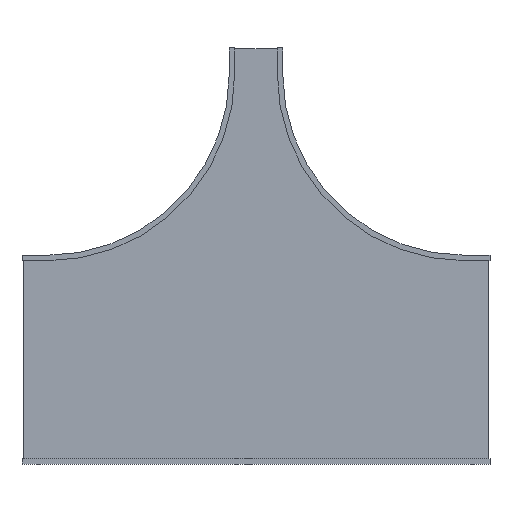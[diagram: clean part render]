
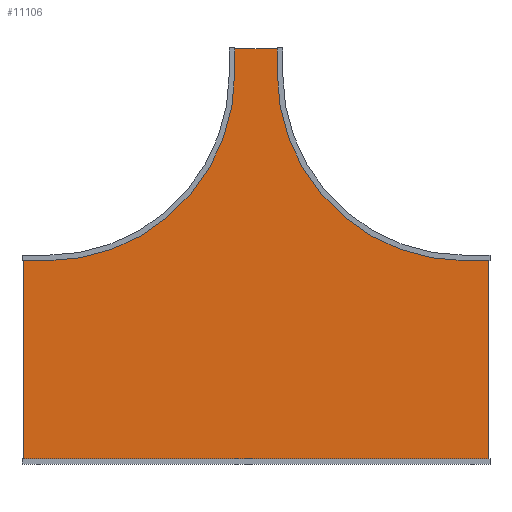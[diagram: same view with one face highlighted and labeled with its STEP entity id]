
A CAD part, front view. The second image highlights one B-rep face of the part: STEP entity #11106.
In plain terms, the highlighted planar face has unit normal (0, -1, 0).
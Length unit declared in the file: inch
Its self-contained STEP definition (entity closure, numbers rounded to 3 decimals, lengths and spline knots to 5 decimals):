
#10915=DIRECTION('',(1.,0.,0.));
#10916=VECTOR('',#10915,5.875);
#10917=CARTESIAN_POINT('',(-2.9375,0.,0.));
#10918=LINE('',#10917,#10916);
#10919=DIRECTION('',(0.,0.,-1.));
#10920=VECTOR('',#10919,2.875);
#10921=CARTESIAN_POINT('',(2.9375,0.,0.));
#10922=LINE('',#10921,#10920);
#10923=CARTESIAN_POINT('',(24.,0.,-2.875));
#10924=DIRECTION('',(0.,-1.,0.));
#10925=DIRECTION('',(-1.,0.,0.));
#10926=AXIS2_PLACEMENT_3D('',#10923,#10924,#10925);
#10928=DIRECTION('',(1.,0.,0.));
#10929=VECTOR('',#10928,2.875);
#10930=CARTESIAN_POINT('',(24.,0.,-23.9375));
#10931=LINE('',#10930,#10929);
#10932=DIRECTION('',(0.,0.,-1.));
#10933=VECTOR('',#10932,23.875);
#10934=CARTESIAN_POINT('',(26.875,0.,-23.9375));
#10935=LINE('',#10934,#10933);
#10936=DIRECTION('',(-1.,0.,0.));
#10937=VECTOR('',#10936,53.75);
#10938=CARTESIAN_POINT('',(26.875,0.,-47.8125));
#10939=LINE('',#10938,#10937);
#10940=DIRECTION('',(0.,0.,1.));
#10941=VECTOR('',#10940,23.875);
#10942=CARTESIAN_POINT('',(-26.875,0.,-47.8125));
#10943=LINE('',#10942,#10941);
#10944=DIRECTION('',(1.,0.,0.));
#10945=VECTOR('',#10944,2.875);
#10946=CARTESIAN_POINT('',(-26.875,0.,-23.9375));
#10947=LINE('',#10946,#10945);
#10948=CARTESIAN_POINT('',(-24.,0.,-2.875));
#10949=DIRECTION('',(0.,-1.,0.));
#10950=DIRECTION('',(0.,0.,-1.));
#10951=AXIS2_PLACEMENT_3D('',#10948,#10949,#10950);
#10953=DIRECTION('',(0.,0.,1.));
#10954=VECTOR('',#10953,2.875);
#10955=CARTESIAN_POINT('',(-2.9375,0.,-2.875));
#10956=LINE('',#10955,#10954);
#11039=CARTESIAN_POINT('',(-2.9375,0.,0.));
#11040=CARTESIAN_POINT('',(2.9375,0.,0.));
#11041=VERTEX_POINT('',#11039);
#11042=VERTEX_POINT('',#11040);
#11043=CARTESIAN_POINT('',(2.9375,0.,-2.875));
#11044=VERTEX_POINT('',#11043);
#11045=CARTESIAN_POINT('',(24.,0.,-23.9375));
#11046=VERTEX_POINT('',#11045);
#11047=CARTESIAN_POINT('',(26.875,0.,-23.9375));
#11048=VERTEX_POINT('',#11047);
#11049=CARTESIAN_POINT('',(26.875,0.,-47.8125));
#11050=VERTEX_POINT('',#11049);
#11051=CARTESIAN_POINT('',(-26.875,0.,-47.8125));
#11052=VERTEX_POINT('',#11051);
#11053=CARTESIAN_POINT('',(-26.875,0.,-23.9375));
#11054=VERTEX_POINT('',#11053);
#11055=CARTESIAN_POINT('',(-24.,0.,-23.9375));
#11056=VERTEX_POINT('',#11055);
#11057=CARTESIAN_POINT('',(-2.9375,0.,-2.875));
#11058=VERTEX_POINT('',#11057);
#11079=CARTESIAN_POINT('',(0.,0.,0.));
#11080=DIRECTION('',(0.,1.,0.));
#11081=DIRECTION('',(1.,0.,0.));
#11082=AXIS2_PLACEMENT_3D('',#11079,#11080,#11081);
#11083=PLANE('',#11082);
#11085=ORIENTED_EDGE('',*,*,#11084,.T.);
#11087=ORIENTED_EDGE('',*,*,#11086,.T.);
#11089=ORIENTED_EDGE('',*,*,#11088,.T.);
#11091=ORIENTED_EDGE('',*,*,#11090,.T.);
#11093=ORIENTED_EDGE('',*,*,#11092,.T.);
#11095=ORIENTED_EDGE('',*,*,#11094,.T.);
#11097=ORIENTED_EDGE('',*,*,#11096,.T.);
#11099=ORIENTED_EDGE('',*,*,#11098,.T.);
#11101=ORIENTED_EDGE('',*,*,#11100,.T.);
#11103=ORIENTED_EDGE('',*,*,#11102,.T.);
#11104=EDGE_LOOP('',(#11085,#11087,#11089,#11091,#11093,#11095,#11097,#11099,
#11101,#11103));
#11105=FACE_OUTER_BOUND('',#11104,.F.);
#11106=ADVANCED_FACE('',(#11105),#11083,.F.);
#10927=CIRCLE('',#10926,21.0625);
#10952=CIRCLE('',#10951,21.0625);
#11084=EDGE_CURVE('',#11041,#11042,#10918,.T.);
#11086=EDGE_CURVE('',#11042,#11044,#10922,.T.);
#11088=EDGE_CURVE('',#11044,#11046,#10927,.T.);
#11090=EDGE_CURVE('',#11046,#11048,#10931,.T.);
#11092=EDGE_CURVE('',#11048,#11050,#10935,.T.);
#11094=EDGE_CURVE('',#11050,#11052,#10939,.T.);
#11096=EDGE_CURVE('',#11052,#11054,#10943,.T.);
#11098=EDGE_CURVE('',#11054,#11056,#10947,.T.);
#11100=EDGE_CURVE('',#11056,#11058,#10952,.T.);
#11102=EDGE_CURVE('',#11058,#11041,#10956,.T.);
